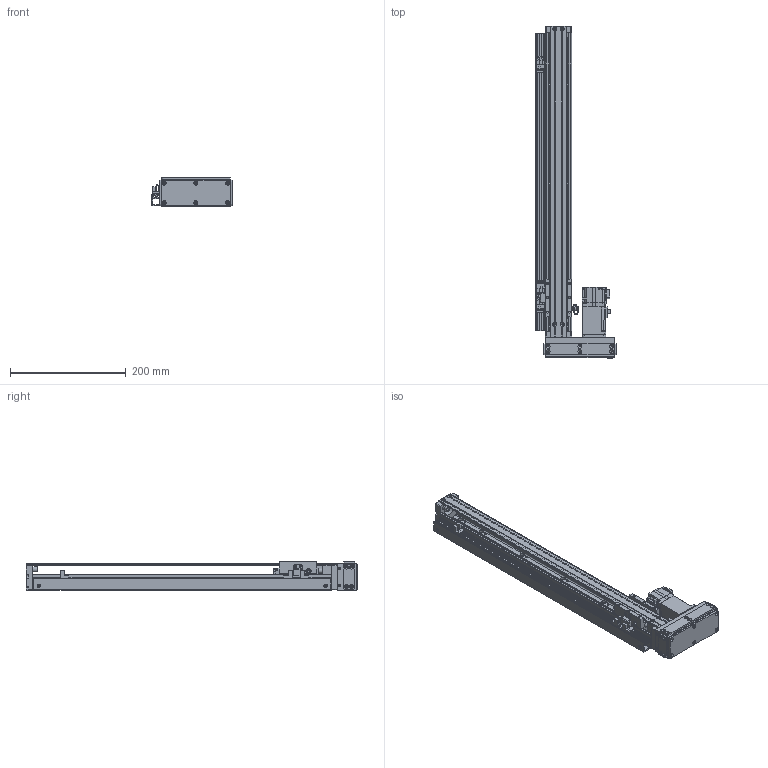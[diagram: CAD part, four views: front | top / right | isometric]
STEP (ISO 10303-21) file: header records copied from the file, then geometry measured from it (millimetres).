
FILE_DESCRIPTION(/* description */ ('MANUFACTURE'),/* implementation_level */ '2;1');
FILE_NAME(/* name */ '\\192.168.0.160\disk1\HAN SHIN Master\B-설계부문\C-표준\B-2024년\BC02-표준도면\+로봇 개선표준도면\표준 승인도 폴더 - 재작업\3D\HG45\병렬-R\HG45-R10-N-0400-L10.stp',/* time_stamp */ '2024-03-05T10:01:07+09:00',/* author */ ('User'),/* organization */ (''),/* preprocessor_version */ 'ST-DEVELOPER v18.1',/* originating_system */ 'Autodesk Inventor 2022',/* authorisation */ 'LIP');
FILE_SCHEMA (('AUTOMOTIVE_DESIGN { 1 0 10303 214 3 1 1 }'));
Products named in the file (21): HG45-L10-N-0500-R10 - 간소화; HR45 S BASE; HR45 REAR BLOCK; HR45 FRONT BLOCK; HR45 STOPPER; HR45 SENSOR RAIL; HC45 - TABLE (SFSR); HR45 UPCOVER-28mm; HR45 MOTOR PLATE 100W; hg-kr13_; 화살표; ESF1210 NUT; HR45 LR BELT COVER; HR45 ACRYL COVER(정면); HR45 ACRYL COVER(측면); HR45 ACRYL COVER(상하면); HC45 L,R MOTOR PLATE_MIR; HR45 SENSOR DOG; NIPPLE CAP(신규); hsr_ftht_A-M6F_grease_nipple_joint; EE_SX674A
Assembly tree (27 placements, depth 2):
  HG45-L10-N-0500-R10 - 간소화
    HR45 S BASE
    HR45 REAR BLOCK
    HR45 FRONT BLOCK
    HR45 STOPPER  x4
    HR45 SENSOR RAIL
    HC45 - TABLE (SFSR)
    HR45 UPCOVER-28mm
    HR45 MOTOR PLATE 100W
    hg-kr13_
    화살표  x2
    EE_SX674A  x3
    ESF1210 NUT
    HR45 LR BELT COVER
    HR45 ACRYL COVER(상하면)  x2
    HR45 ACRYL COVER(정면)
    HR45 ACRYL COVER(측면)
    HC45 L,R MOTOR PLATE_MIR
    HR45 SENSOR DOG
    NIPPLE CAP(신규)
    hsr_ftht_A-M6F_grease_nipple_joint
Bounding box: 139.5 x 574 x 50 mm (x, y, z)
Volume: 655754.1 mm3; surface area: 348688.6 mm2
Topology: 27 solids, 27 shells, 2330 faces, 6380 edges, 4192 vertices
Faces by surface type: plane 1664, cylinder 512, cone 127, bspline 13, sphere 8, torus 6
Full cylindrical faces by diameter (mm): 1 x1, 2.013 x6, 2.459 x74, 2.5 x4, 3 x11, 3.242 x24, 3.4 x36, 3.5 x21, 4 x13, 4.134 x1, 4.5 x18, 4.917 x2, 5.6 x3, 5.9 x2, 6 x20, 6.5 x6, 8 x13, 9 x4, 10 x1, 12 x1, 13 x1, 15 x1, 18 x1, 22 x2, 24 x1, 26 x1, 30 x2
Entity records: 72708 total; most frequent: CARTESIAN_POINT 13997, ORIENTED_EDGE 11880, DIRECTION 11310, EDGE_CURVE 5940, LINE 4680, VECTOR 4680, VERTEX_POINT 3945, AXIS2_PLACEMENT_3D 3315
